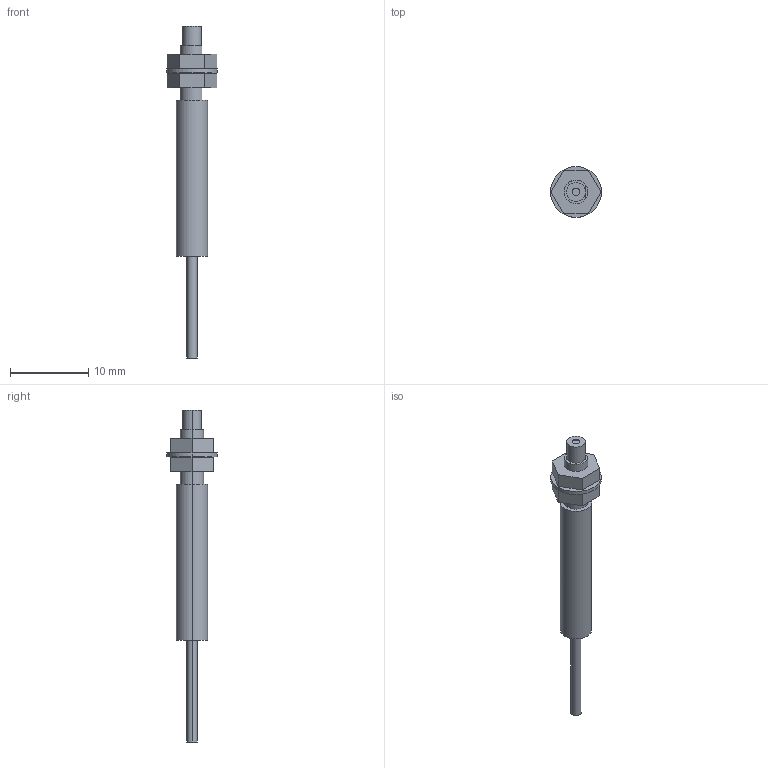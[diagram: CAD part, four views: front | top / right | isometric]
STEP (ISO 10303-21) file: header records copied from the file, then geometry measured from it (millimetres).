
FILE_DESCRIPTION (( 'STEP AP203' ), '1' );
FILE_NAME ('FT-T80.STEP', '2005-11-09T08:30:24', ( '' ), ( '' ), 'SwSTEP 2.0', 'SolidWorks 2004073', '' );
FILE_SCHEMA (( 'CONFIG_CONTROL_DESIGN' ));
Length unit declared in the file: millimetre
Products named in the file (1): FT-T80
Bounding box: 6.5 x 6.5 x 42.5 mm (x, y, z)
Volume: 409.2 mm3; surface area: 660.2 mm2
Topology: 4 solids, 4 shells, 43 faces, 93 edges, 62 vertices
Faces by surface type: plane 25, cylinder 18
Entity records: 1266 total; most frequent: DIRECTION 217, CARTESIAN_POINT 199, ORIENTED_EDGE 186, EDGE_CURVE 93, AXIS2_PLACEMENT_3D 80, VERTEX_POINT 62, LINE 57, VECTOR 57
